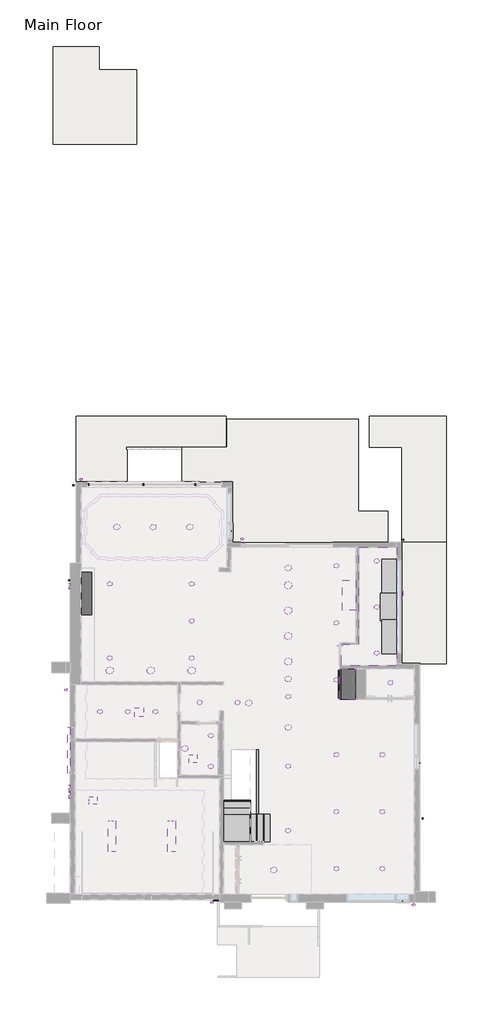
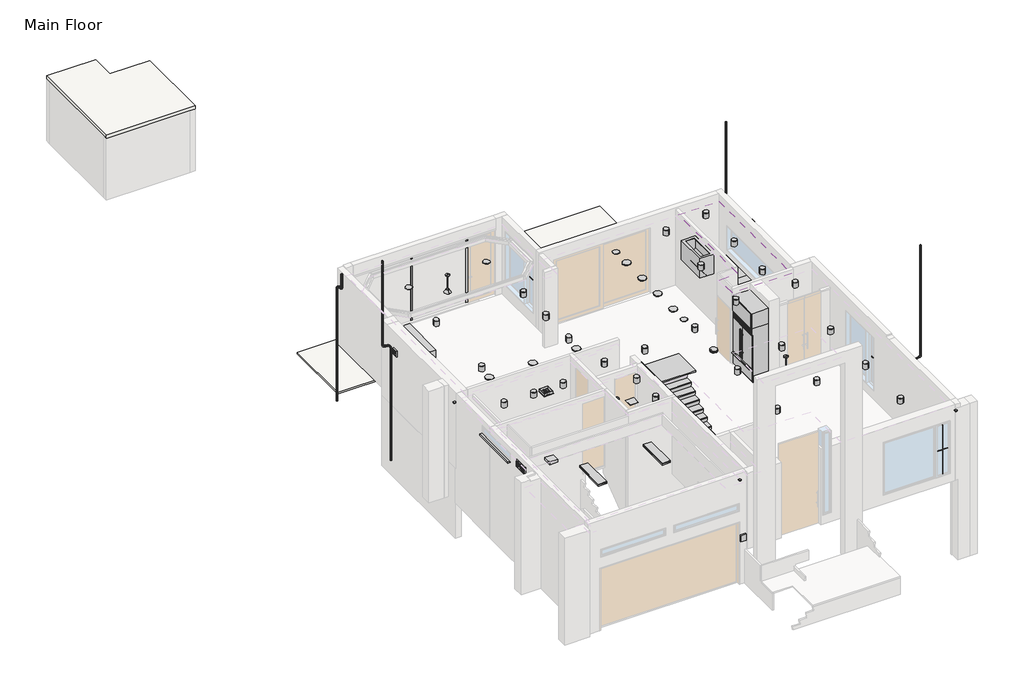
# One storey, part 4 of 4: 44 proxies, 33 light fixtures, 4 slabs, 2 coverings, 1 furniture element, 1 railing, 1 roof, 1 stair flight.
"""IFC4 building model written with IfcOpenShell, lengths in millimetres."""

from ifc_helpers import new_model, si_unit, point, frame, frame_2d, origin, origin_with_axes, place, context, project, spatial, polyline, circle_curve, ellipse_curve, trimmed, segment, composite_curve, outline, extrude, faceted_brep, transform, mapped, element, save
from ifc_brep_helpers import plane_surface, extruded_surface, advanced_brep
from components import generic_models_a077fc04, air_vent_default_1_fc0a5ae6, proxy_8f18e016, commercial_rangehood_default_1_3e8b6b1f, countertop_rectangle_shape_base_default_2_4a08ce68, countertop_rectangle_shape_base_default_2_ce7c2608, countertop_rectangle_shape_base_default_2_ecc6f1f0, default_cac5e5bb, default_1_231b9623, downspout_downspout_4650_563059b9, downspout_downspout_4650_81a1eef7, downspout_downspout_4650_12743e26, downspout_downspout_4650_afc3864c, exhaust_fan_default_1_e91b617f, exhaust_vent_exhaust_vent_92b16d7d, exhaust_vent_exhaust_vent_277719e1, exhaust_vent_exhaust_vent_25ff05df, fireplace1_600mm_caf5e62f, fridge_default_1_250fe022, generic_mechanical_ceiling_object_default_1_1d04c9e1, muntin_pattern_2x2_muntin_pattern_2x2_68fd71e2, muntin_pattern_2x2_muntin_pattern_2x2_74ecfb93, muntin_pattern_2x2_muntin_pattern_2x2_28477c7b, security_camera_default_1_4da77557, speaker_default_1_aa482b27, type_1_ff3e687f, furniture_2e8e266d, ceiling_mounted_fluorescent_light_default_1_12463801, pendant_light_default_1_241a7df5, light_fixture_643521e1, stair_flight_50mm_tread_25mm_nosing_13mm_riser_24ee91d4

model = new_model("IFC4")

# Units and contexts
model_context = context("Model", 3, world=origin())
ifc_project = project(units=[si_unit("LENGTHUNIT", "METRE", prefix="MILLI")], contexts=[model_context])

# Site, building, storey
site = spatial("IfcSite", under=ifc_project)
building = spatial("IfcBuilding", under=site)
storey = spatial("IfcBuildingStorey", under=building, Name="Main Floor", Elevation=0.0)

# Proxies
placement = place(None, origin())
element("IfcBuildingElementProxy", 1, Name="Planitar-Mullion", ObjectType="Planitar-Mullion", at=placement, inside=storey, context=model_context, shape_type="SweptSolid", body=[
    extrude(outline(polyline([(10750.8540111, 15797.5409405), (10750.8540111, 15734.0409405), (10687.3540111, 15734.0409405), (10687.3540111, 15797.5409405), (10750.8540111, 15797.5409405)])), frame((0.0, 0.0, 69.85), z_axis=(0.0, 0.0, 1.0), x_axis=(1.0, 0.0, 0.0)), (0.0, 0.0, 1.0), 2520.95),
])
element("IfcBuildingElementProxy", 2, Name="Planitar-Mullion", ObjectType="Planitar-Mullion", at=placement, inside=storey, context=model_context, shape_type="SweptSolid", body=[
    extrude(outline(polyline([(8563.8517773, 15797.5409405), (8563.8517773, 15734.0409405), (8500.3517773, 15734.0409405), (8500.3517773, 15797.5409405), (8563.8517773, 15797.5409405)])), frame((0.0, 0.0, 69.85), z_axis=(0.0, 0.0, 1.0), x_axis=(1.0, 0.0, 0.0)), (0.0, 0.0, 1.0), 2520.95),
])
element("IfcBuildingElementProxy", 3, Name="Planitar-Mullion", ObjectType="Planitar-Mullion", at=placement, inside=storey, context=model_context, shape_type="SweptSolid", body=[
    extrude(outline(polyline([(12812.0017773, 15797.5409405), (12812.0017773, 15734.0409405), (12748.5017773, 15734.0409405), (12748.5017773, 15797.5409405), (12812.0017773, 15797.5409405)])), frame((0.0, 0.0, 69.85), z_axis=(0.0, 0.0, 1.0), x_axis=(1.0, 0.0, 0.0)), (0.0, 0.0, 1.0), 2520.95),
])
generic_models_shape = generic_models_a077fc04(model_context)
element("IfcBuildingElementProxy", 4, Name="Wall  Protrusion : Wall  Protrusion", ObjectType="Wall  Protrusion : Wall  Protrusion", at=placement, inside=storey, context=model_context, shape_type="MappedRepresentation", body=[
    mapped(generic_models_shape, transform((13602.3396585, -693.4090595, 457.2), x_axis=(1.0, 0.0, 0.0), y_axis=(0.0, 0.0, 1.0), z_axis=(0.0, -1.0, 0.0))),
])
air_vent_default_1_shape = air_vent_default_1_fc0a5ae6(model_context)
element("IfcBuildingElementProxy", 5, Name="Air Vent : Default 1", ObjectType="Air Vent : Default 1", at=placement, inside=storey, context=model_context, shape_type="MappedRepresentation", body=[
    mapped(air_vent_default_1_shape, transform((10544.9549773, 6729.7409405, 304.8), x_axis=(1.0, 0.0, 0.0), y_axis=(0.0, 1.0, 0.0), z_axis=(0.0, 0.0, 1.0))),
])
proxy_shape = proxy_8f18e016(model_context)
element("IfcBuildingElementProxy", 6, Name="Ceiling Mounted Light : 2'-0\"", ObjectType="Ceiling Mounted Light : 2'-0\"", at=placement, inside=storey, context=model_context, shape_type="MappedRepresentation", body=[
    mapped(proxy_shape, transform((16463.2517773, 11771.6409405, 304.8), x_axis=(1.0, 0.0, 0.0), y_axis=(0.0, 1.0, 0.0), z_axis=(0.0, 0.0, 1.0))),
])
element("IfcBuildingElementProxy", 7, Name="Ceiling Mounted Light : 2'-0\"", ObjectType="Ceiling Mounted Light : 2'-0\"", at=placement, inside=storey, context=model_context, shape_type="MappedRepresentation", body=[
    mapped(proxy_shape, transform((16463.2517773, 10764.1076072, 304.8), x_axis=(1.0, 0.0, 0.0), y_axis=(0.0, 1.0, 0.0), z_axis=(0.0, 0.0, 1.0))),
])
element("IfcBuildingElementProxy", 8, Name="Ceiling Mounted Light : 2'-0\"", ObjectType="Ceiling Mounted Light : 2'-0\"", at=placement, inside=storey, context=model_context, shape_type="MappedRepresentation", body=[
    mapped(proxy_shape, transform((16463.2517773, 9756.5742739, 304.8), x_axis=(1.0, 0.0, 0.0), y_axis=(0.0, 1.0, 0.0), z_axis=(0.0, 0.0, 1.0))),
])
element("IfcBuildingElementProxy", 9, Name="Ceiling Mounted Light : 2'-0\"", ObjectType="Ceiling Mounted Light : 2'-0\"", at=placement, inside=storey, context=model_context, shape_type="MappedRepresentation", body=[
    mapped(proxy_shape, transform((16463.2517773, 8749.0409405, 304.8), x_axis=(1.0, 0.0, 0.0), y_axis=(0.0, 1.0, 0.0), z_axis=(0.0, 0.0, 1.0))),
])
element("IfcBuildingElementProxy", 10, Name="Ceiling Mounted Light : 2'-0\"", ObjectType="Ceiling Mounted Light : 2'-0\"", at=placement, inside=storey, context=model_context, shape_type="MappedRepresentation", body=[
    mapped(proxy_shape, transform((12634.2017773, 8387.0909405, 304.8), x_axis=(1.0, 0.0, 0.0), y_axis=(0.0, 1.0, 0.0), z_axis=(0.0, 0.0, 1.0))),
])
element("IfcBuildingElementProxy", 11, Name="Ceiling Mounted Light : 2'-0\"", ObjectType="Ceiling Mounted Light : 2'-0\"", at=placement, inside=storey, context=model_context, shape_type="MappedRepresentation", body=[
    mapped(proxy_shape, transform((9383.0017773, 8387.0909405, 304.8), x_axis=(1.0, 0.0, 0.0), y_axis=(0.0, 1.0, 0.0), z_axis=(0.0, 0.0, 1.0))),
])
element("IfcBuildingElementProxy", 12, Name="Ceiling Mounted Light : 2'-0\"", ObjectType="Ceiling Mounted Light : 2'-0\"", at=placement, inside=storey, context=model_context, shape_type="MappedRepresentation", body=[
    mapped(proxy_shape, transform((11008.6017773, 8387.0909405, 304.8), x_axis=(1.0, 0.0, 0.0), y_axis=(0.0, 1.0, 0.0), z_axis=(0.0, 0.0, 1.0))),
])
element("IfcBuildingElementProxy", 13, Name="Ceiling Mounted Light : 2'-0\"", ObjectType="Ceiling Mounted Light : 2'-0\"", at=placement, inside=storey, context=model_context, shape_type="MappedRepresentation", body=[
    mapped(proxy_shape, transform((8716.1517773, 30746.1963405, -2540.0), x_axis=(1.0, 0.0, 0.0), y_axis=(0.0, 1.0, 0.0), z_axis=(0.0, 0.0, 1.0))),
])
commercial_rangehood_default_1_shape = commercial_rangehood_default_1_3e8b6b1f(model_context)
element("IfcBuildingElementProxy", 14, Name="Commercial Rangehood : Default 1", ObjectType="Commercial Rangehood : Default 1", at=placement, inside=storey, context=model_context, shape_type="MappedRepresentation", body=[
    mapped(commercial_rangehood_default_1_shape, transform((19155.6623773, 11460.4909405, -457.2), x_axis=(0.0, 1.0, 0.0), y_axis=(-1.0, 0.0, 0.0), z_axis=(0.0, 0.0, 1.0))),
])
countertop_rectangle_shape_base_default_2_shape = countertop_rectangle_shape_base_default_2_4a08ce68(model_context)
element("IfcBuildingElementProxy", 15, Name="Countertop- Rectangle shape base : Default 2", ObjectType="Countertop- Rectangle shape base : Default 2", at=placement, inside=storey, context=model_context, shape_type="MappedRepresentation", body=[
    mapped(countertop_rectangle_shape_base_default_2_shape, transform((20870.1517773, 8968.1160905, 0.0), x_axis=(0.0, 1.0, 0.0), y_axis=(-1.0, 0.0, 0.0), z_axis=(0.0, 0.0, 1.0))),
])
countertop_rectangle_shape_base_default_2_2_shape = countertop_rectangle_shape_base_default_2_ce7c2608(model_context)
element("IfcBuildingElementProxy", 16, Name="Countertop- Rectangle shape base : Default 2", ObjectType="Countertop- Rectangle shape base : Default 2", at=placement, inside=storey, context=model_context, shape_type="MappedRepresentation", body=[
    mapped(countertop_rectangle_shape_base_default_2_2_shape, transform((20082.7517773, 11676.3909405, 0.0), x_axis=(0.0, -1.0, 0.0), y_axis=(1.0, 0.0, 0.0), z_axis=(0.0, 0.0, 1.0))),
])
countertop_rectangle_shape_base_default_2_3_shape = countertop_rectangle_shape_base_default_2_ecc6f1f0(model_context)
element("IfcBuildingElementProxy", 17, Name="Countertop- Rectangle shape base : Default 2", ObjectType="Countertop- Rectangle shape base : Default 2", at=placement, inside=storey, context=model_context, shape_type="MappedRepresentation", body=[
    mapped(countertop_rectangle_shape_base_default_2_3_shape, transform((20108.1517773, 12879.7159405, 0.0), x_axis=(0.0, -1.0, 0.0), y_axis=(1.0, 0.0, 0.0), z_axis=(0.0, 0.0, 1.0))),
])
default_shape = default_cac5e5bb(model_context)
element("IfcBuildingElementProxy", 18, Name="Smoke & Carbon Monoxide Detector - Floor : Default", ObjectType="Smoke & Carbon Monoxide Detector - Floor : Default", at=placement, inside=storey, context=model_context, shape_type="MappedRepresentation", body=[
    mapped(default_shape, transform((14907.4049773, 7117.0909405, 0.0), x_axis=(1.0, 0.0, 0.0), y_axis=(0.0, 1.0, 0.0), z_axis=(0.0, 0.0, 1.0))),
])
default_1_shape = default_1_231b9623(model_context)
element("IfcBuildingElementProxy", 19, Name="Smoke & Carbon Monoxide Detector : Default 1", ObjectType="Smoke & Carbon Monoxide Detector : Default 1", at=placement, inside=storey, context=model_context, shape_type="MappedRepresentation", body=[
    mapped(default_1_shape, transform((16463.2517773, 6139.1909405, 304.8), x_axis=(1.0, 0.0, 0.0), y_axis=(0.0, 1.0, 0.0), z_axis=(0.0, 0.0, 1.0))),
])
downspout_downspout_4650_shape = downspout_downspout_4650_563059b9(model_context)
element("IfcBuildingElementProxy", 20, Name="Downspout : Downspout_4650", ObjectType="Downspout : Downspout_4650", at=placement, inside=storey, context=model_context, shape_type="MappedRepresentation", body=[
    mapped(downspout_downspout_4650_shape, transform((21041.5049773, 13575.0409405, -2133.6), x_axis=(1.0, 0.0, 0.0), y_axis=(0.0, 1.0, 0.0), z_axis=(0.0, 0.0, 1.0))),
])
downspout_downspout_4650_2_shape = downspout_downspout_4650_81a1eef7(model_context)
element("IfcBuildingElementProxy", 21, Name="Downspout : Downspout_4650", ObjectType="Downspout : Downspout_4650", at=placement, inside=storey, context=model_context, shape_type="MappedRepresentation", body=[
    mapped(downspout_downspout_4650_2_shape, transform((7770.0049773, 11968.4909405, -2133.6), x_axis=(0.0, -1.0, 0.0), y_axis=(1.0, 0.0, 0.0), z_axis=(0.0, 0.0, 1.0))),
])
downspout_downspout_4650_3_shape = downspout_downspout_4650_12743e26(model_context)
element("IfcBuildingElementProxy", 22, Name="Downspout : Downspout_4650", ObjectType="Downspout : Downspout_4650", at=placement, inside=storey, context=model_context, shape_type="MappedRepresentation", body=[
    mapped(downspout_downspout_4650_3_shape, transform((7941.4549773, 15740.3909405, -2133.6), x_axis=(1.0, 0.0, 0.0), y_axis=(0.0, 1.0, 0.0), z_axis=(0.0, 0.0, 1.0))),
])
downspout_downspout_4650_4_shape = downspout_downspout_4650_afc3864c(model_context)
element("IfcBuildingElementProxy", 23, Name="Downspout : Downspout_4650", ObjectType="Downspout : Downspout_4650", at=placement, inside=storey, context=model_context, shape_type="MappedRepresentation", body=[
    mapped(downspout_downspout_4650_4_shape, transform((21803.6017773, 2526.0409405, -1625.6), x_axis=(0.0, 1.0, 0.0), y_axis=(-1.0, 0.0, 0.0), z_axis=(0.0, 0.0, 1.0))),
])
exhaust_fan_default_1_shape = exhaust_fan_default_1_e91b617f(model_context)
element("IfcBuildingElementProxy", 24, Name="Exhaust Fan : Default 1", ObjectType="Exhaust Fan : Default 1", at=placement, inside=storey, context=model_context, shape_type="MappedRepresentation", body=[
    mapped(exhaust_fan_default_1_shape, transform((12691.5080273, 4894.5909405, 304.8), x_axis=(1.0, 0.0, 0.0), y_axis=(0.0, 1.0, 0.0), z_axis=(0.0, 0.0, 1.0))),
])
exhaust_vent_exhaust_vent_shape = exhaust_vent_exhaust_vent_92b16d7d(model_context)
element("IfcBuildingElementProxy", 25, Name="Exhaust Vent : Exhaust Vent", ObjectType="Exhaust Vent : Exhaust Vent", at=placement, inside=storey, context=model_context, shape_type="MappedRepresentation", body=[
    mapped(exhaust_vent_exhaust_vent_shape, transform((20882.7549773, 11350.746545, 1027.5938563), x_axis=(0.0, -1.0, 0.0), y_axis=(1.0, 0.0, 0.0), z_axis=(0.0, 0.0, 1.0))),
])
exhaust_vent_exhaust_vent_2_shape = exhaust_vent_exhaust_vent_277719e1(model_context)
element("IfcBuildingElementProxy", 26, Name="Exhaust Vent : Exhaust Vent", ObjectType="Exhaust Vent : Exhaust Vent", at=placement, inside=storey, context=model_context, shape_type="MappedRepresentation", body=[
    mapped(exhaust_vent_exhaust_vent_2_shape, transform((7916.0549773, 3734.335336, 736.0037157), x_axis=(0.0, 1.0, 0.0), y_axis=(-1.0, 0.0, 0.0), z_axis=(0.0, 0.0, 1.0))),
])
element("IfcBuildingElementProxy", 27, Name="Exhaust Vent : Exhaust Vent", ObjectType="Exhaust Vent : Exhaust Vent", at=placement, inside=storey, context=model_context, shape_type="MappedRepresentation", body=[
    mapped(exhaust_vent_exhaust_vent_2_shape, transform((7916.0549773, 3454.935336, 736.0037157), x_axis=(0.0, 1.0, 0.0), y_axis=(-1.0, 0.0, 0.0), z_axis=(0.0, 0.0, 1.0))),
])
exhaust_vent_exhaust_vent_3_shape = exhaust_vent_exhaust_vent_25ff05df(model_context)
element("IfcBuildingElementProxy", 28, Name="Exhaust Vent : Exhaust Vent", ObjectType="Exhaust Vent : Exhaust Vent", at=placement, inside=storey, context=model_context, shape_type="MappedRepresentation", body=[
    mapped(exhaust_vent_exhaust_vent_3_shape, transform((8030.3549773, 11735.335336, 352.5343133), x_axis=(0.0, 1.0, 0.0), y_axis=(-1.0, 0.0, 0.0), z_axis=(0.0, 0.0, 1.0))),
])
fireplace1_600mm_shape = fireplace1_600mm_caf5e62f(model_context)
element("IfcBuildingElementProxy", 29, Name="Fireplace1 : 600mm", ObjectType="Fireplace1 : 600mm", at=placement, inside=storey, context=model_context, shape_type="MappedRepresentation", body=[
    mapped(fireplace1_600mm_shape, transform((8146.2549773, 11444.1613405, 0.0), x_axis=(0.0, 1.0, 0.0), y_axis=(-1.0, 0.0, 0.0), z_axis=(0.0, 0.0, 1.0))),
])
fridge_default_1_shape = fridge_default_1_250fe022(model_context)
element("IfcBuildingElementProxy", 30, Name="Fridge : Default 1", ObjectType="Fridge : Default 1", at=placement, inside=storey, context=model_context, shape_type="MappedRepresentation", body=[
    mapped(fridge_default_1_shape, transform((19255.5549773, 7852.9708905, 0.0), x_axis=(0.0, -1.0, 0.0), y_axis=(1.0, 0.0, 0.0), z_axis=(0.0, 0.0, 1.0))),
])
generic_mechanical_ceiling_object_default_1_shape = generic_mechanical_ceiling_object_default_1_1d04c9e1(model_context)
element("IfcBuildingElementProxy", 31, Name="Generic Mechanical Ceiling Object : Default 1", ObjectType="Generic Mechanical Ceiling Object : Default 1", at=placement, inside=storey, context=model_context, shape_type="MappedRepresentation", body=[
    mapped(generic_mechanical_ceiling_object_default_1_shape, transform((8724.4672035, 3230.8909405, 457.2), x_axis=(1.0, 0.0, 0.0), y_axis=(0.0, 1.0, 0.0), z_axis=(0.0, 0.0, 1.0))),
])
muntin_pattern_2x2_muntin_pattern_2x2_shape = muntin_pattern_2x2_muntin_pattern_2x2_68fd71e2(model_context)
element("IfcBuildingElementProxy", 32, Name="Muntin Pattern_2x2 : Muntin Pattern_2x2", ObjectType="Muntin Pattern_2x2 : Muntin Pattern_2x2", at=placement, inside=storey, context=model_context, shape_type="MappedRepresentation", body=[
    mapped(muntin_pattern_2x2_muntin_pattern_2x2_shape, transform((21009.7549773, -785.4840595, 425.45), x_axis=(1.0, 0.0, 0.0), y_axis=(0.0, 1.0, 0.0), z_axis=(0.0, 0.0, 1.0))),
])
muntin_pattern_2x2_muntin_pattern_2x2_2_shape = muntin_pattern_2x2_muntin_pattern_2x2_74ecfb93(model_context)
element("IfcBuildingElementProxy", 33, Name="Muntin Pattern_2x2 : Muntin Pattern_2x2", ObjectType="Muntin Pattern_2x2 : Muntin Pattern_2x2", at=placement, inside=storey, context=model_context, shape_type="MappedRepresentation", body=[
    mapped(muntin_pattern_2x2_muntin_pattern_2x2_2_shape, transform((21666.9799773, 4723.1409405, 425.45), x_axis=(0.0, -1.0, 0.0), y_axis=(1.0, 0.0, 0.0), z_axis=(0.0, 0.0, 1.0))),
])
muntin_pattern_2x2_muntin_pattern_2x2_3_shape = muntin_pattern_2x2_muntin_pattern_2x2_28477c7b(model_context)
element("IfcBuildingElementProxy", 34, Name="Muntin Pattern_2x2 : Muntin Pattern_2x2", ObjectType="Muntin Pattern_2x2 : Muntin Pattern_2x2", at=placement, inside=storey, context=model_context, shape_type="MappedRepresentation", body=[
    mapped(muntin_pattern_2x2_muntin_pattern_2x2_3_shape, transform((14243.8299773, 13917.9409405, 527.05), x_axis=(0.0, -1.0, 0.0), y_axis=(1.0, 0.0, 0.0), z_axis=(0.0, 0.0, 1.0))),
])
security_camera_default_1_shape = security_camera_default_1_4da77557(model_context)
element("IfcBuildingElementProxy", 35, Name="Security Camera : Default 1", ObjectType="Security Camera : Default 1", at=placement, inside=storey, context=model_context, shape_type="MappedRepresentation", body=[
    mapped(security_camera_default_1_shape, transform((8703.5517773, 15715.5363871, 393.7), x_axis=(0.0, 1.0, 0.0), y_axis=(-1.0, 0.0, 0.0), z_axis=(0.0, 0.0, 1.0))),
])
element("IfcBuildingElementProxy", 36, Name="Security Camera : Default 1", ObjectType="Security Camera : Default 1", at=placement, inside=storey, context=model_context, shape_type="MappedRepresentation", body=[
    mapped(security_camera_default_1_shape, transform((21905.2011695, -1150.6090595, 406.4), x_axis=(0.0, 1.0, 0.0), y_axis=(-1.0, 0.0, 0.0), z_axis=(0.0, 0.0, 1.0))),
])
element("IfcBuildingElementProxy", 37, Name="Security Camera : Default 1", ObjectType="Security Camera : Default 1", at=placement, inside=storey, context=model_context, shape_type="MappedRepresentation", body=[
    mapped(security_camera_default_1_shape, transform((13186.4581773, -1252.2090595, 406.4), x_axis=(1.0, 0.0, 0.0), y_axis=(0.0, 1.0, 0.0), z_axis=(0.0, 0.0, 1.0))),
])
element("IfcBuildingElementProxy", 38, Name="Security Camera : Default 1", ObjectType="Security Camera : Default 1", at=placement, inside=storey, context=model_context, shape_type="MappedRepresentation", body=[
    mapped(security_camera_default_1_shape, transform((8100.1081773, 7379.6282405, 393.7), x_axis=(0.0, 1.0, 0.0), y_axis=(-1.0, 0.0, 0.0), z_axis=(0.0, 0.0, 1.0))),
])
element("IfcBuildingElementProxy", 39, Name="Security Camera : Default 1", ObjectType="Security Camera : Default 1", at=placement, inside=storey, context=model_context, shape_type="MappedRepresentation", body=[
    mapped(security_camera_default_1_shape, transform((15091.5549773, 13352.7909405, 393.7), x_axis=(0.0, 1.0, 0.0), y_axis=(-1.0, 0.0, 0.0), z_axis=(0.0, 0.0, 1.0))),
])
speaker_default_1_shape = speaker_default_1_aa482b27(model_context)
element("IfcBuildingElementProxy", 40, Name="Speaker : Default 1", ObjectType="Speaker : Default 1", at=placement, inside=storey, context=model_context, shape_type="MappedRepresentation", body=[
    mapped(speaker_default_1_shape, transform((16463.2517773, 8063.2409405, 304.8), x_axis=(0.0, 1.0, 0.0), y_axis=(-1.0, 0.0, 0.0), z_axis=(0.0, 0.0, 1.0))),
])
element("IfcBuildingElementProxy", 41, Name="Speaker : Default 1", ObjectType="Speaker : Default 1", at=placement, inside=storey, context=model_context, shape_type="MappedRepresentation", body=[
    mapped(speaker_default_1_shape, transform((16463.2517773, 12457.4409405, 304.8), x_axis=(0.0, 1.0, 0.0), y_axis=(-1.0, 0.0, 0.0), z_axis=(0.0, 0.0, 1.0))),
])
element("IfcBuildingElementProxy", 42, Name="Speaker : Default 1", ObjectType="Speaker : Default 1", at=placement, inside=storey, context=model_context, shape_type="MappedRepresentation", body=[
    mapped(speaker_default_1_shape, transform((9662.4017773, 14076.6909405, 304.8), x_axis=(0.0, 1.0, 0.0), y_axis=(-1.0, 0.0, 0.0), z_axis=(0.0, 0.0, 1.0))),
])
element("IfcBuildingElementProxy", 43, Name="Speaker : Default 1", ObjectType="Speaker : Default 1", at=placement, inside=storey, context=model_context, shape_type="MappedRepresentation", body=[
    mapped(speaker_default_1_shape, transform((12558.0017773, 14076.6909405, 304.8), x_axis=(0.0, 1.0, 0.0), y_axis=(-1.0, 0.0, 0.0), z_axis=(0.0, 0.0, 1.0))),
])
type_1_shape = type_1_ff3e687f(model_context)
element("IfcBuildingElementProxy", 44, Name="Window Header_Lentil : Type 1", ObjectType="Window Header_Lentil : Type 1", at=placement, inside=storey, context=model_context, shape_type="MappedRepresentation", body=[
    mapped(type_1_shape, transform((8116.0549773, 5099.7909405, 150.3), x_axis=(0.0, 1.0, 0.0), y_axis=(-1.0, 0.0, 0.0), z_axis=(0.0, 0.0, 1.0))),
])

# Coverings
element("IfcCovering", 45, ObjectType="1/2\" Ceiling", at=placement, inside=storey, context=model_context, shape_type="SweptSolid", body=[
    extrude(outline(polyline([(19269.9623773, 9434.8409405), (19269.9623773, 13276.5909405), (20781.1549773, 13276.5909405), (20781.1549773, 8571.2409405), (18571.4517773, 8571.2409405), (18571.4517773, 9434.8409405), (19269.9623773, 9434.8409405)]), holes=[composite_curve([segment(trimmed(circle_curve(frame_2d((19981.1517773, 12736.8409405)), 87.3), [point((20068.4517773, 12736.8409405))], [point((19893.8517773, 12736.8409405))], True, "CARTESIAN"), True, "CONTINUOUS"), segment(trimmed(circle_curve(frame_2d((19981.1517773, 12736.8409405)), 87.3), [point((19893.8517773, 12736.8409405))], [point((20068.4517773, 12736.8409405))], True, "CARTESIAN"), True, "CONTINUOUS")], self_intersect=False), composite_curve([segment(trimmed(circle_curve(frame_2d((19981.1517773, 10908.0409405)), 87.3), [point((20068.4517773, 10908.0409405))], [point((19893.8517773, 10908.0409405))], True, "CARTESIAN"), True, "CONTINUOUS"), segment(trimmed(circle_curve(frame_2d((19981.1517773, 10908.0409405)), 87.3), [point((19893.8517773, 10908.0409405))], [point((20068.4517773, 10908.0409405))], True, "CARTESIAN"), True, "CONTINUOUS")], self_intersect=False), composite_curve([segment(trimmed(circle_curve(frame_2d((19981.1517773, 9079.2409405)), 87.3), [point((20068.4517773, 9079.2409405))], [point((19893.8517773, 9079.2409405))], True, "CARTESIAN"), True, "CONTINUOUS"), segment(trimmed(circle_curve(frame_2d((19981.1517773, 9079.2409405)), 87.3), [point((19893.8517773, 9079.2409405))], [point((20068.4517773, 9079.2409405))], True, "CARTESIAN"), True, "CONTINUOUS")], self_intersect=False)]), frame((0.0, 0.0, 2743.2), z_axis=(0.0, 0.0, 1.0), x_axis=(1.0, 0.0, 0.0)), (0.0, 0.0, 1.0), 12.7),
])
element("IfcCovering", 46, ObjectType="1/2\" Ceiling", at=placement, inside=storey, context=model_context, shape_type="SweptSolid", body=[
    extrude(outline(polyline([(10252.8517773, 29469.8463405), (7338.2017773, 29469.8463405), (7338.2017773, 32930.5963405), (8766.9517773, 32930.5963405), (8766.9517773, 32016.1963405), (10252.8517773, 32016.1963405), (10252.8517773, 29469.8463405)])), frame((0.0, 0.0, -101.6), z_axis=(0.0, 0.0, 1.0), x_axis=(1.0, 0.0, 0.0)), (0.0, 0.0, 1.0), 12.7),
])

# Furniture
furniture_shape = furniture_2e8e266d(model_context)
element("IfcFurniture", 47, ObjectType="Upper Cabinet-Single Door-Wall : 21\" x 2'1\"", at=placement, inside=storey, context=model_context, shape_type="MappedRepresentation", body=[
    mapped(furniture_shape, transform((19358.7549773, 8198.5697777, 609.6), x_axis=(0.0, 1.0, 0.0), y_axis=(-1.0, 0.0, 0.0), z_axis=(0.0, 0.0, 1.0))),
])

# Light fixtures
ceiling_mounted_fluorescent_light_default_1_shape = ceiling_mounted_fluorescent_light_default_1_12463801(model_context)
element("IfcLightFixture", 48, ObjectType="Ceiling Mounted Fluorescent Light : Default 1", at=placement, inside=storey, context=model_context, shape_type="MappedRepresentation", body=[
    mapped(ceiling_mounted_fluorescent_light_default_1_shape, transform((9465.5517773, 1814.8409405, 457.2), x_axis=(0.0, 1.0, 0.0), y_axis=(-1.0, 0.0, 0.0), z_axis=(0.0, 0.0, 1.0))),
])
element("IfcLightFixture", 49, ObjectType="Ceiling Mounted Fluorescent Light : Default 1", at=placement, inside=storey, context=model_context, shape_type="MappedRepresentation", body=[
    mapped(ceiling_mounted_fluorescent_light_default_1_shape, transform((11840.4517773, 1814.8409405, 457.2), x_axis=(0.0, 1.0, 0.0), y_axis=(-1.0, 0.0, 0.0), z_axis=(0.0, 0.0, 1.0))),
])
pendant_light_default_1_shape = pendant_light_default_1_241a7df5(model_context)
element("IfcLightFixture", 50, ObjectType="Pendant Light : Default 1", at=placement, inside=storey, context=model_context, shape_type="MappedRepresentation", body=[
    mapped(pendant_light_default_1_shape, transform((12367.5017773, 5300.9909405, 304.8), x_axis=(1.0, 0.0, 0.0), y_axis=(0.0, 1.0, 0.0), z_axis=(0.0, 0.0, 1.0))),
])
element("IfcLightFixture", 51, ObjectType="Pendant Light : Default 1", at=placement, inside=storey, context=model_context, shape_type="MappedRepresentation", body=[
    mapped(pendant_light_default_1_shape, transform((11110.2017773, 14076.6909405, 304.8), x_axis=(1.0, 0.0, 0.0), y_axis=(0.0, 1.0, 0.0), z_axis=(0.0, 0.0, 1.0))),
])
element("IfcLightFixture", 52, ObjectType="Pendant Light : Default 1", at=placement, inside=storey, context=model_context, shape_type="MappedRepresentation", body=[
    mapped(pendant_light_default_1_shape, transform((15898.1017773, 481.3409405, 3657.6), x_axis=(1.0, 0.0, 0.0), y_axis=(0.0, 1.0, 0.0), z_axis=(0.0, 0.0, 1.0))),
])
light_fixture_shape = light_fixture_643521e1(model_context)
element("IfcLightFixture", 53, ObjectType="Recessed Pot Light : 8\"", at=placement, inside=storey, context=model_context, shape_type="MappedRepresentation", body=[
    mapped(light_fixture_shape, transform((19981.1517773, 12736.8409405, 304.8), x_axis=(1.0, 0.0, 0.0), y_axis=(0.0, 1.0, 0.0), z_axis=(0.0, 0.0, 1.0))),
])
element("IfcLightFixture", 54, ObjectType="Recessed Pot Light : 8\"", at=placement, inside=storey, context=model_context, shape_type="MappedRepresentation", body=[
    mapped(light_fixture_shape, transform((19981.1517773, 10908.0409405, 304.8), x_axis=(1.0, 0.0, 0.0), y_axis=(0.0, 1.0, 0.0), z_axis=(0.0, 0.0, 1.0))),
])
element("IfcLightFixture", 55, ObjectType="Recessed Pot Light : 8\"", at=placement, inside=storey, context=model_context, shape_type="MappedRepresentation", body=[
    mapped(light_fixture_shape, transform((19981.1517773, 9079.2409405, 304.8), x_axis=(1.0, 0.0, 0.0), y_axis=(0.0, 1.0, 0.0), z_axis=(0.0, 0.0, 1.0))),
])
element("IfcLightFixture", 56, ObjectType="Recessed Pot Light : 8\"", at=placement, inside=storey, context=model_context, shape_type="MappedRepresentation", body=[
    mapped(light_fixture_shape, transform((8995.6517773, 6757.3282405, 304.8), x_axis=(1.0, 0.0, 0.0), y_axis=(0.0, 1.0, 0.0), z_axis=(0.0, 0.0, 1.0))),
])
element("IfcLightFixture", 57, ObjectType="Recessed Pot Light : 8\"", at=placement, inside=storey, context=model_context, shape_type="MappedRepresentation", body=[
    mapped(light_fixture_shape, transform((10097.3767773, 6757.3282405, 304.8), x_axis=(1.0, 0.0, 0.0), y_axis=(0.0, 1.0, 0.0), z_axis=(0.0, 0.0, 1.0))),
])
element("IfcLightFixture", 58, ObjectType="Recessed Pot Light : 8\"", at=placement, inside=storey, context=model_context, shape_type="MappedRepresentation", body=[
    mapped(light_fixture_shape, transform((11199.1017773, 6757.3282405, 304.8), x_axis=(1.0, 0.0, 0.0), y_axis=(0.0, 1.0, 0.0), z_axis=(0.0, 0.0, 1.0))),
])
element("IfcLightFixture", 59, ObjectType="Recessed Pot Light : 8\"", at=placement, inside=storey, context=model_context, shape_type="MappedRepresentation", body=[
    mapped(light_fixture_shape, transform((13396.3580273, 4589.7909405, 304.8), x_axis=(1.0, 0.0, 0.0), y_axis=(0.0, 1.0, 0.0), z_axis=(0.0, 0.0, 1.0))),
])
element("IfcLightFixture", 60, ObjectType="Recessed Pot Light : 8\"", at=placement, inside=storey, context=model_context, shape_type="MappedRepresentation", body=[
    mapped(light_fixture_shape, transform((20527.2517773, 7904.4909405, 304.8), x_axis=(1.0, 0.0, 0.0), y_axis=(0.0, 1.0, 0.0), z_axis=(0.0, 0.0, 1.0))),
])
element("IfcLightFixture", 61, ObjectType="Recessed Pot Light : 8\"", at=placement, inside=storey, context=model_context, shape_type="MappedRepresentation", body=[
    mapped(light_fixture_shape, transform((18380.8549773, 532.1409405, 304.8), x_axis=(1.0, 0.0, 0.0), y_axis=(0.0, 1.0, 0.0), z_axis=(0.0, 0.0, 1.0))),
])
element("IfcLightFixture", 62, ObjectType="Recessed Pot Light : 8\"", at=placement, inside=storey, context=model_context, shape_type="MappedRepresentation", body=[
    mapped(light_fixture_shape, transform((20203.3049773, 532.1409405, 304.8), x_axis=(1.0, 0.0, 0.0), y_axis=(0.0, 1.0, 0.0), z_axis=(0.0, 0.0, 1.0))),
])
element("IfcLightFixture", 63, ObjectType="Recessed Pot Light : 8\"", at=placement, inside=storey, context=model_context, shape_type="MappedRepresentation", body=[
    mapped(light_fixture_shape, transform((20203.3049773, 2791.9807905, 304.8), x_axis=(1.0, 0.0, 0.0), y_axis=(0.0, 1.0, 0.0), z_axis=(0.0, 0.0, 1.0))),
])
element("IfcLightFixture", 64, ObjectType="Recessed Pot Light : 8\"", at=placement, inside=storey, context=model_context, shape_type="MappedRepresentation", body=[
    mapped(light_fixture_shape, transform((20203.3049773, 5051.8206405, 304.8), x_axis=(1.0, 0.0, 0.0), y_axis=(0.0, 1.0, 0.0), z_axis=(0.0, 0.0, 1.0))),
])
element("IfcLightFixture", 65, ObjectType="Recessed Pot Light : 8\"", at=placement, inside=storey, context=model_context, shape_type="MappedRepresentation", body=[
    mapped(light_fixture_shape, transform((18380.8549773, 2791.9807905, 304.8), x_axis=(1.0, 0.0, 0.0), y_axis=(0.0, 1.0, 0.0), z_axis=(0.0, 0.0, 1.0))),
])
element("IfcLightFixture", 66, ObjectType="Recessed Pot Light : 8\"", at=placement, inside=storey, context=model_context, shape_type="MappedRepresentation", body=[
    mapped(light_fixture_shape, transform((18380.8549773, 5051.8206405, 304.8), x_axis=(1.0, 0.0, 0.0), y_axis=(0.0, 1.0, 0.0), z_axis=(0.0, 0.0, 1.0))),
])
element("IfcLightFixture", 67, ObjectType="Recessed Pot Light : 8\"", at=placement, inside=storey, context=model_context, shape_type="MappedRepresentation", body=[
    mapped(light_fixture_shape, transform((16463.2517773, 2043.4409405, 304.8), x_axis=(1.0, 0.0, 0.0), y_axis=(0.0, 1.0, 0.0), z_axis=(0.0, 0.0, 1.0))),
])
element("IfcLightFixture", 68, ObjectType="Recessed Pot Light : 8\"", at=placement, inside=storey, context=model_context, shape_type="MappedRepresentation", body=[
    mapped(light_fixture_shape, transform((16463.2517773, 4596.1409405, 304.8), x_axis=(1.0, 0.0, 0.0), y_axis=(0.0, 1.0, 0.0), z_axis=(0.0, 0.0, 1.0))),
])
element("IfcLightFixture", 69, ObjectType="Recessed Pot Light : 8\"", at=placement, inside=storey, context=model_context, shape_type="MappedRepresentation", body=[
    mapped(light_fixture_shape, transform((16463.2517773, 7352.0409405, 304.8), x_axis=(1.0, 0.0, 0.0), y_axis=(0.0, 1.0, 0.0), z_axis=(0.0, 0.0, 1.0))),
])
element("IfcLightFixture", 70, ObjectType="Recessed Pot Light : 8\"", at=placement, inside=storey, context=model_context, shape_type="MappedRepresentation", body=[
    mapped(light_fixture_shape, transform((18380.8549773, 8022.8604905, 304.8), x_axis=(1.0, 0.0, 0.0), y_axis=(0.0, 1.0, 0.0), z_axis=(0.0, 0.0, 1.0))),
])
element("IfcLightFixture", 71, ObjectType="Recessed Pot Light : 8\"", at=placement, inside=storey, context=model_context, shape_type="MappedRepresentation", body=[
    mapped(light_fixture_shape, transform((18380.8549773, 10282.7003405, 304.8), x_axis=(1.0, 0.0, 0.0), y_axis=(0.0, 1.0, 0.0), z_axis=(0.0, 0.0, 1.0))),
])
element("IfcLightFixture", 72, ObjectType="Recessed Pot Light : 8\"", at=placement, inside=storey, context=model_context, shape_type="MappedRepresentation", body=[
    mapped(light_fixture_shape, transform((18380.8549773, 12542.5401905, 304.8), x_axis=(1.0, 0.0, 0.0), y_axis=(0.0, 1.0, 0.0), z_axis=(0.0, 0.0, 1.0))),
])
element("IfcLightFixture", 73, ObjectType="Recessed Pot Light : 8\"", at=placement, inside=storey, context=model_context, shape_type="MappedRepresentation", body=[
    mapped(light_fixture_shape, transform((9383.0017773, 8882.3909405, 304.8), x_axis=(1.0, 0.0, 0.0), y_axis=(0.0, 1.0, 0.0), z_axis=(0.0, 0.0, 1.0))),
])
element("IfcLightFixture", 74, ObjectType="Recessed Pot Light : 8\"", at=placement, inside=storey, context=model_context, shape_type="MappedRepresentation", body=[
    mapped(light_fixture_shape, transform((9389.3517773, 11828.7909405, 304.8), x_axis=(1.0, 0.0, 0.0), y_axis=(0.0, 1.0, 0.0), z_axis=(0.0, 0.0, 1.0))),
])
element("IfcLightFixture", 75, ObjectType="Recessed Pot Light : 8\"", at=placement, inside=storey, context=model_context, shape_type="MappedRepresentation", body=[
    mapped(light_fixture_shape, transform((12634.2017773, 8882.3909405, 304.8), x_axis=(1.0, 0.0, 0.0), y_axis=(0.0, 1.0, 0.0), z_axis=(0.0, 0.0, 1.0))),
])
element("IfcLightFixture", 76, ObjectType="Recessed Pot Light : 8\"", at=placement, inside=storey, context=model_context, shape_type="MappedRepresentation", body=[
    mapped(light_fixture_shape, transform((12640.5517773, 11828.7909405, 304.8), x_axis=(1.0, 0.0, 0.0), y_axis=(0.0, 1.0, 0.0), z_axis=(0.0, 0.0, 1.0))),
])
element("IfcLightFixture", 77, ObjectType="Recessed Pot Light : 8\"", at=placement, inside=storey, context=model_context, shape_type="MappedRepresentation", body=[
    mapped(light_fixture_shape, transform((12634.2017773, 10355.5909405, 304.8), x_axis=(1.0, 0.0, 0.0), y_axis=(0.0, 1.0, 0.0), z_axis=(0.0, 0.0, 1.0))),
])
element("IfcLightFixture", 78, ObjectType="Recessed Pot Light : 8\"", at=placement, inside=storey, context=model_context, shape_type="MappedRepresentation", body=[
    mapped(light_fixture_shape, transform((12951.7017773, 7123.4409405, 304.8), x_axis=(1.0, 0.0, 0.0), y_axis=(0.0, 1.0, 0.0), z_axis=(0.0, 0.0, 1.0))),
])
element("IfcLightFixture", 79, ObjectType="Recessed Pot Light : 8\"", at=placement, inside=storey, context=model_context, shape_type="MappedRepresentation", body=[
    mapped(light_fixture_shape, transform((14456.6517773, 7123.4409405, 304.8), x_axis=(1.0, 0.0, 0.0), y_axis=(0.0, 1.0, 0.0), z_axis=(0.0, 0.0, 1.0))),
])
element("IfcLightFixture", 80, ObjectType="Recessed Pot Light : 8\"", at=placement, inside=storey, context=model_context, shape_type="MappedRepresentation", body=[
    mapped(light_fixture_shape, transform((13396.3580273, 5808.9909405, 304.8), x_axis=(1.0, 0.0, 0.0), y_axis=(0.0, 1.0, 0.0), z_axis=(0.0, 0.0, 1.0))),
])

# Railing
element("IfcRailing", 81, ObjectType="Glass Panel - Bottom Fill", at=placement, inside=storey, context=model_context, shape_type="SolidModel", body=[
    advanced_brep(
    [(15288.9241122, 5240.2154405, 900.0), (15208.9241122, 5240.2154405, 900.0), (15288.9241122, 2711.1409405, 900.0), (15208.9241122, 2711.1409405, 900.0)],
    [
        (0, 1, ellipse_curve(frame((15248.9241122, 5240.2154405, 900.0), z_axis=(0.0, 1.0, 0.0), x_axis=(-1.0, 0.0, 0.0)), 40.0, 30.0)),
        (1, 0, ellipse_curve(frame((15248.9241122, 5240.2154405, 900.0), z_axis=(0.0, 1.0, 0.0), x_axis=(-1.0, 0.0, 0.0)), 40.0, 30.0)),
        (2, 3, ellipse_curve(frame((15248.9241122, 2711.1409405, 900.0), z_axis=(0.0, -1.0, 0.0), x_axis=(-1.0, 0.0, 0.0)), 40.0, 30.0)),
        (3, 2, ellipse_curve(frame((15248.9241122, 2711.1409405, 900.0), z_axis=(0.0, -1.0, 0.0), x_axis=(-1.0, 0.0, 0.0)), 40.0, 30.0)),
        (1, 3),
        (2, 0),
    ],
    [
        plane_surface(frame((15248.9241122, 5240.2154405, 900.0), z_axis=(0.0, 1.0, 0.0), x_axis=(0.0, 0.0, -1.0))),
        plane_surface(frame((15248.9241122, 2711.1409405, 900.0), z_axis=(0.0, -1.0, 0.0), x_axis=(0.0, 0.0, -1.0))),
        extruded_surface(trimmed(ellipse_curve(frame((15248.9241122, 2711.1409405, 900.0), z_axis=(0.0, 1.0, 0.0), x_axis=(-1.0, 0.0, 0.0)), 40.0, 30.0), [point((15208.9241122, 2711.1409405, 900.0))], [point((15288.9241122, 2711.1409405, 900.0))], True, "CARTESIAN"), (0.0, 2529.0745, 0.0), 2529.0745),
        extruded_surface(trimmed(ellipse_curve(frame((15248.9241122, 2711.1409405, 900.0), z_axis=(0.0, 1.0, 0.0), x_axis=(-1.0, 0.0, 0.0)), 40.0, 30.0), [point((15288.9241122, 2711.1409405, 900.0))], [point((15208.9241122, 2711.1409405, 900.0))], True, "CARTESIAN"), (0.0, 2529.0745, 0.0), 2529.0745),
    ],
    [
        (0, [[1, 2]]),
        (1, [[3, 4]]),
        (2, [[-2, 5, -3, 6]]),
        (3, [[-1, -6, -4, -5]]),
    ],
),
    extrude(outline(polyline([(15238.3148773, 5240.2154405), (15258.3148773, 5240.2154405), (15258.3148773, 2711.1409405), (15238.3148773, 2711.1409405), (15238.3148773, 5240.2154405)])), frame((0.0, 0.0, 780.0), z_axis=(0.0, 0.0, 1.0), x_axis=(1.0, 0.0, 0.0)), (0.0, 0.0, 1.0), 20.0),
    extrude(outline(polyline([(15238.3148773, 5240.2154405), (15258.3148773, 5240.2154405), (15258.3148773, 2711.1409405), (15238.3148773, 2711.1409405), (15238.3148773, 5240.2154405)])), frame((0.0, 0.0, 680.0), z_axis=(0.0, 0.0, 1.0), x_axis=(1.0, 0.0, 0.0)), (0.0, 0.0, 1.0), 20.0),
    extrude(outline(polyline([(15223.3148773, 2781.6781905), (15273.3148773, 2781.6781905), (15273.3148773, 2769.6781905), (15223.3148773, 2769.6781905), (15223.3148773, 2781.6781905)])), origin_with_axes(), (0.0, 0.0, 1.0), 869.8465326),
    extrude(outline(polyline([(15250.0396874, 3575.6781905), (15255.0396874, 3575.6781905), (15255.0396874, 2775.6781905), (15250.0396874, 2775.6781905), (15250.0396874, 3575.6781905)])), frame((0.0, 0.0, 100.0), z_axis=(0.0, 0.0, 1.0), x_axis=(1.0, 0.0, 0.0)), (0.0, 0.0, 1.0), 580.0),
    extrude(outline(polyline([(15223.3148773, 3581.6781905), (15273.3148773, 3581.6781905), (15273.3148773, 3569.6781905), (15223.3148773, 3569.6781905), (15223.3148773, 3581.6781905)])), origin_with_axes(), (0.0, 0.0, 1.0), 869.8465326),
    extrude(outline(polyline([(15250.0396874, 4375.6781905), (15255.0396874, 4375.6781905), (15255.0396874, 3575.6781905), (15250.0396874, 3575.6781905), (15250.0396874, 4375.6781905)])), frame((0.0, 0.0, 100.0), z_axis=(0.0, 0.0, 1.0), x_axis=(1.0, 0.0, 0.0)), (0.0, 0.0, 1.0), 580.0),
    extrude(outline(polyline([(15223.3148773, 4381.6781905), (15273.3148773, 4381.6781905), (15273.3148773, 4369.6781905), (15223.3148773, 4369.6781905), (15223.3148773, 4381.6781905)])), origin_with_axes(), (0.0, 0.0, 1.0), 869.8465326),
    extrude(outline(polyline([(15250.0396874, 5175.6781905), (15255.0396874, 5175.6781905), (15255.0396874, 4375.6781905), (15250.0396874, 4375.6781905), (15250.0396874, 5175.6781905)])), frame((0.0, 0.0, 100.0), z_axis=(0.0, 0.0, 1.0), x_axis=(1.0, 0.0, 0.0)), (0.0, 0.0, 1.0), 580.0),
    extrude(outline(polyline([(15223.3148773, 5181.6781905), (15273.3148773, 5181.6781905), (15273.3148773, 5169.6781905), (15223.3148773, 5169.6781905), (15223.3148773, 5181.6781905)])), origin_with_axes(), (0.0, 0.0, 1.0), 869.8465326),
    extrude(outline(polyline([(15223.3148773, 2719.1409405), (15273.3148773, 2719.1409405), (15273.3148773, 2707.1409405), (15223.3148773, 2707.1409405), (15223.3148773, 2719.1409405)])), origin_with_axes(), (0.0, 0.0, 1.0), 869.8465326),
    extrude(outline(polyline([(15223.3148773, 5244.2154405), (15273.3148773, 5244.2154405), (15273.3148773, 5232.2154405), (15223.3148773, 5232.2154405), (15223.3148773, 5244.2154405)])), origin_with_axes(), (0.0, 0.0, 1.0), 869.8465326),
])

# Roof
element("IfcRoof", 82, ObjectType="Planitar Roof - 5\"", at=placement, inside=storey, context=model_context, shape_type="SweptSolid", body=[
    extrude(outline(polyline([(7135.0017773, 33133.7963405), (8970.1517773, 33133.7963405), (8970.1517773, 32219.3963405), (10456.0517773, 32219.3963405), (10456.0517773, 29266.6463405), (7135.0017773, 29266.6463405), (7135.0017773, 33133.7963405)])), frame((0.0, 0.0, 304.8), z_axis=(0.0, 0.0, 1.0), x_axis=(1.0, 0.0, 0.0)), (0.0, 0.0, 1.0), 127.0),
])

# Slabs
element("IfcSlab", 83, ObjectType="Ledge - 2\"", at=placement, inside=storey, context=model_context, shape_type="Brep", body=[
    faceted_brep([(14253.3549773, 15867.3909405, -50.8), (12261.2247773, 15867.3909405, -50.8), (12261.2247773, 17238.9909405, -50.8), (12280.4081139, 17238.9909405, -50.8), (14050.2517773, 17238.9909405, -50.8), (14050.2517773, 18242.2909405, -50.8), (14050.2517773, 18356.5909405, -50.8), (19257.2517773, 18356.5909405, -50.8), (19257.2517773, 18242.2909405, -50.8), (19257.2517773, 14698.9909405, -50.8), (20425.6517773, 14698.9909405, -50.8), (20425.6517773, 14584.6909405, -50.8), (20425.6517773, 13479.7909405, -50.8), (20311.3517773, 13479.7909405, -50.8), (14459.0174773, 13479.7909405, -50.8), (14253.3549773, 13479.7909405, -50.8), (14253.3549773, 15144.3463405, -50.8), (14253.3549773, 15867.3909405, 0.0), (14253.3549773, 15144.3463405, 0.0), (14253.3549773, 13479.7909405, 0.0), (20425.6517773, 13479.7909405, 0.0), (20425.6517773, 14698.9909405, 0.0), (19257.2517773, 14698.9909405, 0.0), (19257.2517773, 18356.5909405, 0.0), (14050.2517773, 18356.5909405, 0.0), (14050.2517773, 17238.9909405, 0.0), (12261.2247773, 17238.9909405, 0.0), (12261.2247773, 15867.3909405, 0.0), (14027.2174773, 15867.3909405, 0.0)], [[[0, 1, 2, 3, 4, 5, 6, 7, 8, 9, 10, 11, 12, 13, 14, 15, 16]], [[17, 18, 19, 20, 21, 22, 23, 24, 25, 26, 27, 28]], [[1, 0, 17, 28, 27]], [[2, 1, 27, 26]], [[4, 3, 2, 26, 25]], [[6, 5, 4, 25, 24]], [[7, 6, 24, 23]], [[9, 8, 7, 23, 22]], [[10, 9, 22, 21]], [[12, 11, 10, 21, 20]], [[15, 14, 13, 12, 20, 19]], [[0, 16, 15, 19, 18, 17]]]),
])
element("IfcSlab", 84, ObjectType="Ledge - 2\"", at=placement, inside=storey, context=model_context, shape_type="SweptSolid", body=[
    extrude(outline(polyline([(10069.7927319, 17238.9909405), (10069.7927319, 15867.3909405), (8043.0549773, 15867.3909405), (8043.0549773, 18483.5909405), (14001.8174773, 18483.5909405), (14001.8174773, 17238.9909405), (10069.7927319, 17238.9909405)])), frame((0.0, 0.0, -1981.2), z_axis=(0.0, 0.0, 1.0), x_axis=(1.0, 0.0, 0.0)), (0.0, 0.0, 1.0), 50.8),
    extrude(outline(polyline([(20984.4517773, 17251.6909405), (19695.4017773, 17251.6909405), (19695.4017773, 18483.5909405), (22743.4017773, 18483.5909405), (22743.4017773, 13479.7909405), (20984.4517773, 13479.7909405), (20984.4517773, 17251.6909405)])), frame((0.0, 0.0, -1981.2), z_axis=(0.0, 0.0, 1.0), x_axis=(1.0, 0.0, 0.0)), (0.0, 0.0, 1.0), 50.8),
])
element("IfcSlab", 85, ObjectType="Ledge - 2\"", at=placement, inside=storey, context=model_context, shape_type="SweptSolid", body=[
    extrude(outline(polyline([(22743.4017773, 8660.1409405), (20984.4517773, 8660.1409405), (20984.4517773, 13479.7909405), (22743.4017773, 13479.7909405), (22743.4017773, 8660.1409405)])), frame((0.0, 0.0, -1828.8), z_axis=(0.0, 0.0, 1.0), x_axis=(1.0, 0.0, 0.0)), (0.0, 0.0, 1.0), 50.8),
])
element("IfcSlab", 86, ObjectType="Ledge - 2\"", at=placement, inside=storey, context=model_context, shape_type="SweptSolid", body=[
    extrude(outline(polyline([(8766.9517773, 32930.5963405), (8766.9517773, 32016.1963405), (10252.8517773, 32016.1963405), (10252.8517773, 29469.8463405), (7338.2017773, 29469.8463405), (7338.2017773, 32930.5963405), (8766.9517773, 32930.5963405)])), frame((0.0, 0.0, -2184.4), z_axis=(0.0, 0.0, 1.0), x_axis=(1.0, 0.0, 0.0)), (0.0, 0.0, 1.0), 50.8),
])

# Stair flight
stair_flight_50mm_tread_25mm_nosing_13mm_riser_shape = stair_flight_50mm_tread_25mm_nosing_13mm_riser_24ee91d4(model_context)
element("IfcStairFlight", 87, ObjectType="50mm Tread 25mm Nosing 13mm Riser", at=placement, inside=storey, context=model_context, shape_type="MappedRepresentation", body=[
    mapped(stair_flight_50mm_tread_25mm_nosing_13mm_riser_shape, transform((0.0, 0.0, 0.0), x_axis=(1.0, 0.0, 0.0), y_axis=(0.0, 1.0, 0.0), z_axis=(0.0, 0.0, 1.0))),
])

save(model, "model.ifc")
